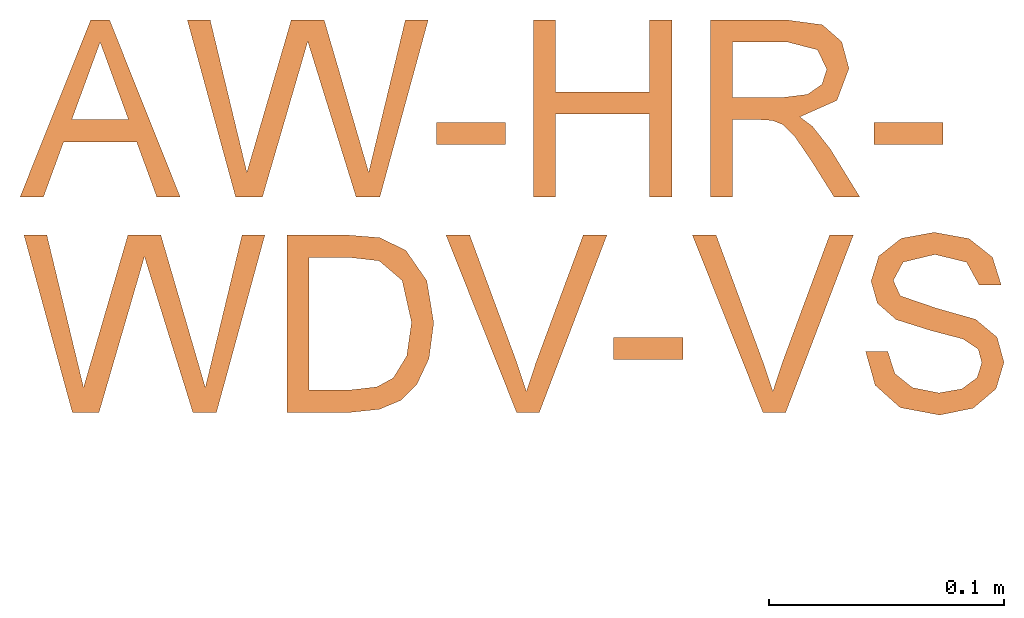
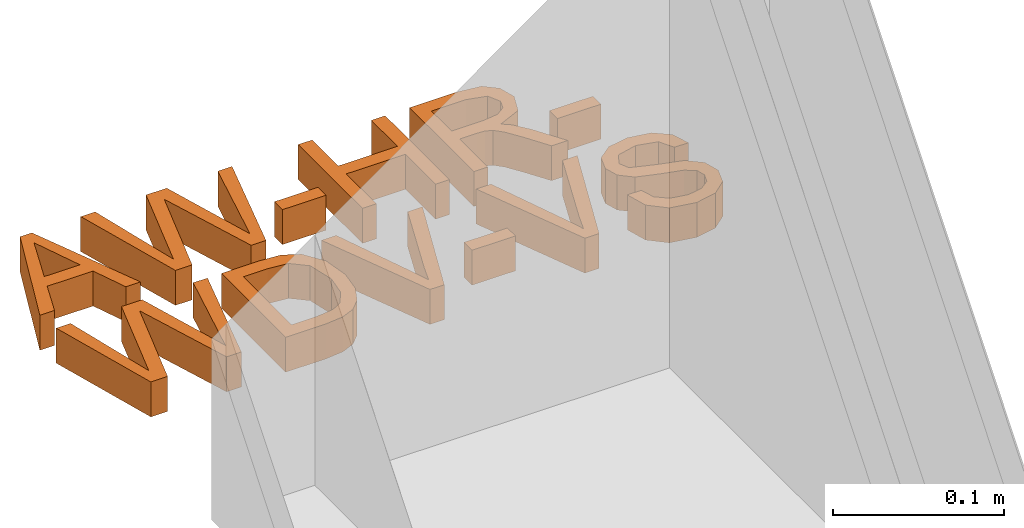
# Not in any storey, part 2 of 2: 1 proxy.
"""IFC4 model written with IfcOpenShell, lengths in metres."""

from ifc_helpers import new_model, entity, si_unit, converted_unit, derived_unit, direction, frame, origin, place, context, subcontext, project, spatial, indexed_curve, outline, extrude, type_object, element, save


model = new_model("IFC4")

# Units and contexts
model_context = context("Model", 3, precision=1e-05, world=origin(), true_north=direction((6.123031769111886e-17, 1.0)))
body_context = subcontext(model_context, "Body", "Model", "MODEL_VIEW")
ifc_project = project(units=[si_unit("LENGTHUNIT", "METRE"), si_unit("AREAUNIT", "SQUARE_METRE"), si_unit("VOLUMEUNIT", "CUBIC_METRE"), converted_unit("PLANEANGLEUNIT", "DEGREE", entity("IfcRatioMeasure", 0.017453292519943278), si_unit("PLANEANGLEUNIT", "RADIAN"), dimensions=[0, 0, 0, 0, 0, 0, 0]), si_unit("MASSUNIT", "GRAM", prefix="KILO"), derived_unit("MASSDENSITYUNIT", [(si_unit("MASSUNIT", "GRAM", prefix="KILO"), 1), (si_unit("LENGTHUNIT", "METRE"), -3)]), derived_unit("IONCONCENTRATIONUNIT", [(si_unit("MASSUNIT", "GRAM", prefix="KILO"), 1), (si_unit("LENGTHUNIT", "METRE"), -3)]), derived_unit("MOMENTOFINERTIAUNIT", [(si_unit("LENGTHUNIT", "METRE"), 4)]), si_unit("TIMEUNIT", "SECOND"), si_unit("FREQUENCYUNIT", "HERTZ"), si_unit("THERMODYNAMICTEMPERATUREUNIT", "DEGREE_CELSIUS"), derived_unit("THERMALTRANSMITTANCEUNIT", [(si_unit("MASSUNIT", "GRAM", prefix="KILO"), 1), (si_unit("THERMODYNAMICTEMPERATUREUNIT", "KELVIN"), -1), (si_unit("TIMEUNIT", "SECOND"), -3)]), derived_unit("THERMALCONDUCTANCEUNIT", [(si_unit("MASSUNIT", "GRAM", prefix="KILO"), 1), (si_unit("THERMODYNAMICTEMPERATUREUNIT", "KELVIN"), -1), (si_unit("TIMEUNIT", "SECOND"), -3), (si_unit("LENGTHUNIT", "METRE"), 1)]), derived_unit("VOLUMETRICFLOWRATEUNIT", [(si_unit("LENGTHUNIT", "METRE"), 3), (si_unit("TIMEUNIT", "SECOND"), -1)]), derived_unit("MASSFLOWRATEUNIT", [(si_unit("MASSUNIT", "GRAM", prefix="KILO"), 1), (si_unit("TIMEUNIT", "SECOND"), -1)]), derived_unit("ROTATIONALFREQUENCYUNIT", [(si_unit("TIMEUNIT", "SECOND"), -1)]), si_unit("ELECTRICCURRENTUNIT", "AMPERE"), si_unit("ELECTRICVOLTAGEUNIT", "VOLT"), si_unit("POWERUNIT", "WATT"), si_unit("FORCEUNIT", "NEWTON", prefix="KILO"), si_unit("ILLUMINANCEUNIT", "LUX"), si_unit("LUMINOUSFLUXUNIT", "LUMEN"), si_unit("LUMINOUSINTENSITYUNIT", "CANDELA"), derived_unit("USERDEFINED", [(si_unit("MASSUNIT", "GRAM", prefix="KILO"), -1), (si_unit("LENGTHUNIT", "METRE"), -2), (si_unit("TIMEUNIT", "SECOND"), 3), (si_unit("LUMINOUSFLUXUNIT", "LUMEN"), 1)]), derived_unit("USERDEFINED", [(si_unit("MASSUNIT", "GRAM", prefix="KILO"), 1), (si_unit("TIMEUNIT", "SECOND"), -3), (si_unit("LENGTHUNIT", "METRE"), 3), (si_unit("ELECTRICCURRENTUNIT", "AMPERE"), -2)]), derived_unit("SOUNDPOWERUNIT", [(si_unit("MASSUNIT", "GRAM", prefix="KILO"), 1), (si_unit("TIMEUNIT", "SECOND"), -3), (si_unit("LENGTHUNIT", "METRE"), 2)]), derived_unit("SOUNDPRESSUREUNIT", [(si_unit("MASSUNIT", "GRAM", prefix="KILO"), 1), (si_unit("LENGTHUNIT", "METRE"), -1), (si_unit("TIMEUNIT", "SECOND"), -2)]), derived_unit("LINEARVELOCITYUNIT", [(si_unit("LENGTHUNIT", "METRE"), 1), (si_unit("TIMEUNIT", "SECOND"), -1)]), si_unit("PRESSUREUNIT", "PASCAL"), derived_unit("USERDEFINED", [(si_unit("MASSUNIT", "GRAM", prefix="KILO"), 1), (si_unit("LENGTHUNIT", "METRE"), -2), (si_unit("TIMEUNIT", "SECOND"), -2)]), derived_unit("LINEARFORCEUNIT", [(si_unit("MASSUNIT", "GRAM", prefix="KILO"), 1), (si_unit("TIMEUNIT", "SECOND"), -2)]), derived_unit("PLANARFORCEUNIT", [(si_unit("MASSUNIT", "GRAM", prefix="KILO"), 1), (si_unit("LENGTHUNIT", "METRE"), -1), (si_unit("TIMEUNIT", "SECOND"), -2)]), derived_unit("SPECIFICHEATCAPACITYUNIT", [(si_unit("THERMODYNAMICTEMPERATUREUNIT", "KELVIN"), -1), (si_unit("LENGTHUNIT", "METRE"), 2), (si_unit("TIMEUNIT", "SECOND"), -2)]), derived_unit("HEATINGVALUEUNIT", [(si_unit("LENGTHUNIT", "METRE"), 2), (si_unit("TIMEUNIT", "SECOND"), -2)]), derived_unit("VAPORPERMEABILITYUNIT", [(si_unit("LENGTHUNIT", "METRE"), -1), (si_unit("TIMEUNIT", "SECOND"), 1)]), derived_unit("DYNAMICVISCOSITYUNIT", [(si_unit("MASSUNIT", "GRAM", prefix="KILO"), 1), (si_unit("TIMEUNIT", "SECOND"), -1), (si_unit("LENGTHUNIT", "METRE"), -1)]), derived_unit("THERMALEXPANSIONCOEFFICIENTUNIT", [(si_unit("THERMODYNAMICTEMPERATUREUNIT", "KELVIN"), -1)]), derived_unit("MODULUSOFELASTICITYUNIT", [(si_unit("MASSUNIT", "GRAM", prefix="KILO"), 1), (si_unit("LENGTHUNIT", "METRE"), -1), (si_unit("TIMEUNIT", "SECOND"), -2)]), derived_unit("ISOTHERMALMOISTURECAPACITYUNIT", [(si_unit("LENGTHUNIT", "METRE"), 3), (si_unit("MASSUNIT", "GRAM", prefix="KILO"), -1)]), derived_unit("MOISTUREDIFFUSIVITYUNIT", [(si_unit("TIMEUNIT", "SECOND"), -1), (si_unit("LENGTHUNIT", "METRE"), 2)])], contexts=[model_context])

# Site
site_placement = place(None, origin())
site = spatial("IfcSite", under=ifc_project, at=site_placement, Name="Default", CompositionType="ELEMENT")

# Proxy
building_element_proxy_type = type_object("IfcBuildingElementProxyType", Name="Modelltext:075mm Arial", PredefinedType="NOTDEFINED")
proxy_placement = place(site_placement, origin())
element("IfcBuildingElementProxy", 1, at=proxy_placement, inside=site, type_object=building_element_proxy_type, Name="Modelltext:075mm Arial", ObjectType="Modelltext:075mm Arial", PredefinedType="NOTDEFINED", context=body_context, shape_type="SweptSolid", body=[
    extrude(outline(indexed_curve([(-0.03408196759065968, -0.02472167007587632), (-0.024130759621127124, -0.02472167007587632), (-0.015522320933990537, -0.0011772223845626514), (0.015508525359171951, -0.0011772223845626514), (0.024135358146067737, -0.02472167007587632), (0.03408656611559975, -0.02472167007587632), (0.0040122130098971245, 0.05062056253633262), (-0.004007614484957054, 0.05062056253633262), (-0.03408196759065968, -0.02472167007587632)], self_intersect=False), holes=[indexed_curve([(-0.012064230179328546, 0.008240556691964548), (-0.004688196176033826, 0.0283820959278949), (2.299262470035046e-06, 0.041202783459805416), (0.005281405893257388, 0.026763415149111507), (0.012068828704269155, 0.008240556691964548), (-0.012064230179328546, 0.008240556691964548)], self_intersect=False)]), frame((4.075217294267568, 47.87914607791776, 0.0)), (0.0, 0.0, 1.0), 0.025),
    extrude(outline(indexed_curve([(-0.03048676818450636, -0.04038957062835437), (-0.019119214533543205, -0.04038957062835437), (-0.002656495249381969, 0.01608031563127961), (0.00017619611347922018, 0.025847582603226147), (0.002696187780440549, 0.0177357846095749), (0.020759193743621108, -0.04038957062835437), (0.030820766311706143, -0.04038957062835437), (0.05138536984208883, 0.03495266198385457), (0.04167328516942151, 0.03495266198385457), (0.02964354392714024, -0.01500571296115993), (0.02607508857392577, -0.029849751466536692), (0.018000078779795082, -0.002221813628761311), (0.007147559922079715, 0.03495266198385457), (-0.006850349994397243, 0.03495266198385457), (-0.021786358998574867, -0.016330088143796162), (-0.02572269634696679, -0.029849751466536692), (-0.02940151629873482, -0.014564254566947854), (-0.04132089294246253, 0.03495266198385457), (-0.05103297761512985, 0.03495266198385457), (-0.03048676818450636, -0.04038957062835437)], self_intersect=False)), frame((4.163335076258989, 47.89481397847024, 0.0)), (0.0, 0.0, 1.0), 0.025),
    extrude(outline(indexed_curve([(-0.014715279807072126, -0.004708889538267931), (0.014715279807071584, -0.004708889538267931), (0.014715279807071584, 0.004708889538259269), (-0.014715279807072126, 0.004708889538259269), (-0.014715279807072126, -0.004708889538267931)], self_intersect=False)), frame((4.232967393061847, 47.881500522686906, 0.0)), (0.0, 0.0, 1.0), 0.025),
    extrude(outline(indexed_curve([(-0.02943055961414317, -0.038455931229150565), (-0.020012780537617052, -0.038455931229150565), (-0.020012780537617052, -0.003139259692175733), (0.020012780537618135, -0.003139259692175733), (0.020012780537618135, -0.038455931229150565), (0.02943055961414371, -0.038455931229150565), (0.02943055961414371, 0.036886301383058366), (0.020012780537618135, 0.036886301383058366), (0.020012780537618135, 0.006278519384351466), (-0.020012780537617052, 0.006278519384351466), (-0.020012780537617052, 0.036886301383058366), (-0.02943055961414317, 0.036886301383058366), (-0.02943055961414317, -0.038455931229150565)], self_intersect=False)), frame((4.288885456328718, 47.892880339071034, 0.0)), (0.0, 0.0, 1.0), 0.025),
    extrude(outline(indexed_curve([(-0.035363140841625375, -0.03376914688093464), (-0.0259453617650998, -0.03376914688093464), (-0.0259453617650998, -0.00080692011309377), (-0.014577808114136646, -0.00080692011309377), (-0.00911476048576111, -0.0011380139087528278), (-0.0046357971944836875, -0.002931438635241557), (0.00033980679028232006, -0.007815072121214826), (0.007421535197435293, -0.018152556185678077), (0.017225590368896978, -0.03376914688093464), (0.028170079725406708, -0.03376914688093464), (0.015606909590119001, -0.013351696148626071), (0.007973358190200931, -0.003658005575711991), (0.002620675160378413, 0.00037030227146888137), (0.018393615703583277, 0.007378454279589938), (0.023497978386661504, 0.020953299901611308), (0.02041696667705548, 0.032348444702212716), (0.012176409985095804, 0.03954053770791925), (-0.002897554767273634, 0.0415730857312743), (-0.035363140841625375, 0.0415730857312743), (-0.035363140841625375, -0.03376914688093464)], self_intersect=False), holes=[indexed_curve([(-0.0259453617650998, 0.00861085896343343), (-0.0259453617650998, 0.0321553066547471), (-0.002492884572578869, 0.0321553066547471), (0.010097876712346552, 0.028899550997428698), (0.014080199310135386, 0.02060381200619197), (0.011992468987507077, 0.014211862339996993), (0.005885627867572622, 0.009944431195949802), (-0.004865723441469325, 0.00861085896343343), (-0.0259453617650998, 0.00861085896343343)], self_intersect=False)]), frame((4.370160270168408, 47.88819355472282, 0.0)), (0.0, 0.0, 1.0), 0.025),
    extrude(outline(indexed_curve([(-0.014715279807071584, -0.004708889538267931), (0.014715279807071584, -0.004708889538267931), (0.014715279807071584, 0.004708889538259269), (-0.014715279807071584, 0.004708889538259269), (-0.014715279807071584, -0.004708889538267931)], self_intersect=False)), frame((4.418968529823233, 47.881500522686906, 0.0)), (0.0, 0.0, 1.0), 0.025),
    extrude(outline(indexed_curve([(-0.03048676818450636, -0.04038957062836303), (-0.019119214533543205, -0.04038957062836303), (-0.002656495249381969, 0.016080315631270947), (0.00017619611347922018, 0.025847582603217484), (0.002696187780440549, 0.017735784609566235), (0.020759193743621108, -0.04038957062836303), (0.030820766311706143, -0.04038957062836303), (0.05138536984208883, 0.03495266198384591), (0.04167328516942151, 0.03495266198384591), (0.02964354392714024, -0.01500571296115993), (0.02607508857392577, -0.029849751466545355), (0.018000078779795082, -0.0022218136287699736), (0.007147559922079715, 0.03495266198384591), (-0.006850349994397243, 0.03495266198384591), (-0.021786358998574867, -0.016330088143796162), (-0.02572269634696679, -0.029849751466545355), (-0.02940151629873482, -0.014564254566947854), (-0.04132089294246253, 0.03495266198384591), (-0.05103297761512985, 0.03495266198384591), (-0.03048676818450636, -0.04038957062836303)], self_intersect=False)), frame((4.093878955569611, 47.803332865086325, 0.0)), (0.0, 0.0, 1.0), 0.025),
    extrude(outline(indexed_curve([(-0.03902844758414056, -0.03575046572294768), (-0.011786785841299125, -0.03575046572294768), (0.00032572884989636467, -0.03446287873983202), (0.00932964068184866, -0.03068289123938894), (0.01620903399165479, -0.023849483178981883), (0.021359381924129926, -0.012877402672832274), (0.02336433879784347, 0.0023253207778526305), (0.020402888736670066, 0.020241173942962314), (0.011481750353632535, 0.03311704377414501), (0.0004085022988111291, 0.03850651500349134), (-0.013037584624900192, 0.03959176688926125), (-0.03902844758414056, 0.03959176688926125), (-0.03902844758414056, -0.03575046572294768)], self_intersect=False), holes=[indexed_curve([(-0.029610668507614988, -0.026332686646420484), (-0.029610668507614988, 0.03017398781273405), (-0.01320313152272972, 0.03017398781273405), (0.0001509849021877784, 0.02866567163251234), (0.009927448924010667, 0.020314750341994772), (0.013946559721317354, 0.0024724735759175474), (0.0118956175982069, -0.01177375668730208), (0.006165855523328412, -0.021127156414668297), (-0.0008239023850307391, -0.024971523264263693), (-0.01294561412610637, -0.026332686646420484), (-0.029610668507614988, -0.026332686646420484)], self_intersect=False)]), frame((4.193710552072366, 47.79869376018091, 0.0)), (0.0, 0.0, 1.0), 0.025),
    extrude(outline(indexed_curve([(-0.004365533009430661, -0.03914673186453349), (0.005364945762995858, -0.03914673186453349), (0.0340781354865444, 0.03619550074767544), (0.023998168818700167, 0.03619550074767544), (0.0038750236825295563, -0.018085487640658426), (-0.0001348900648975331, -0.03031756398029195), (-0.004199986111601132, -0.018085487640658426), (-0.024267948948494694, 0.03619550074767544), (-0.034347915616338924, 0.03619550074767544), (-0.004365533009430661, -0.03914673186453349)], self_intersect=False)), frame((4.256646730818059, 47.802090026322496, 0.0)), (0.0, 0.0, 1.0), 0.025),
    extrude(outline(indexed_curve([(-0.014715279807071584, -0.004708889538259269), (0.014715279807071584, -0.004708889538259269), (0.014715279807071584, 0.004708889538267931), (-0.014715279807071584, 0.004708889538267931), (-0.014715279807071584, -0.004708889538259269)], self_intersect=False)), frame((4.308309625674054, 47.79001940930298, 0.0)), (0.0, 0.0, 1.0), 0.025),
    extrude(outline(indexed_curve([(-0.004365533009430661, -0.03914673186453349), (0.0053649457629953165, -0.03914673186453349), (0.0340781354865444, 0.03619550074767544), (0.023998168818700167, 0.03619550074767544), (0.0038750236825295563, -0.018085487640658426), (-0.0001348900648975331, -0.03031756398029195), (-0.004199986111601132, -0.018085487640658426), (-0.024267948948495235, 0.03619550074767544), (-0.034347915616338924, 0.03619550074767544), (-0.004365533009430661, -0.03914673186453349)], self_intersect=False)), frame((4.361419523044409, 47.802090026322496, 0.0)), (0.0, 0.0, 1.0), 0.025),
    extrude(outline(indexed_curve([(0.002399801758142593, -0.032157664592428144), (0.017347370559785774, -0.032157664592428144), (0.02941028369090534, -0.024508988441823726), (0.03702952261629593, -0.00918200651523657), (0.038080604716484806, 0.0053251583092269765), (0.03280960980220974, 0.0169072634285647), (0.022885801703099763, 0.023219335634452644), (0.011839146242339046, 0.023292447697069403), (0.0020146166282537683, 0.01659769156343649), (-0.007066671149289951, 0.0018463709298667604), (-0.016311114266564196, -0.0115208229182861), (-0.023410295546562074, -0.01263020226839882), (-0.029782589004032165, -0.00643299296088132), (-0.029231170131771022, 0.007422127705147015), (-0.022423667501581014, 0.019470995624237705), (-0.011662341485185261, 0.021972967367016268), (-0.009101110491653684, 0.031035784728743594), (-0.021462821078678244, 0.03064906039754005), (-0.031757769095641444, 0.023236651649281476), (-0.038394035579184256, 0.009629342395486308), (-0.039721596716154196, -0.004503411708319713), (-0.035075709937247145, -0.015727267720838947), (-0.02570601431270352, -0.021768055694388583), (-0.01597845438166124, -0.021774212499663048), (-0.007055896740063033, -0.01597142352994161), (0.0014279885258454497, -0.003029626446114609), (0.008617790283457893, 0.009188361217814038), (0.014474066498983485, 0.014185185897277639), (0.020554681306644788, 0.014091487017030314), (0.026067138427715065, 0.010364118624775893), (0.028887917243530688, 0.0029628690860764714), (0.027866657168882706, -0.0069747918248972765), (0.02260913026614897, -0.017225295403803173), (0.014858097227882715, -0.022737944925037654), (0.004961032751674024, -0.023094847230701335), (0.002399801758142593, -0.032157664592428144)], self_intersect=False)), frame((4.431014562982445, 47.79989704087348, 0.0), z_axis=(0.0, 0.0, 1.0), x_axis=(0.27195700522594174, -0.9623094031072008, 0.0)), (0.0, 0.0, 1.0), 0.025),
])

save(model, "model.ifc")
